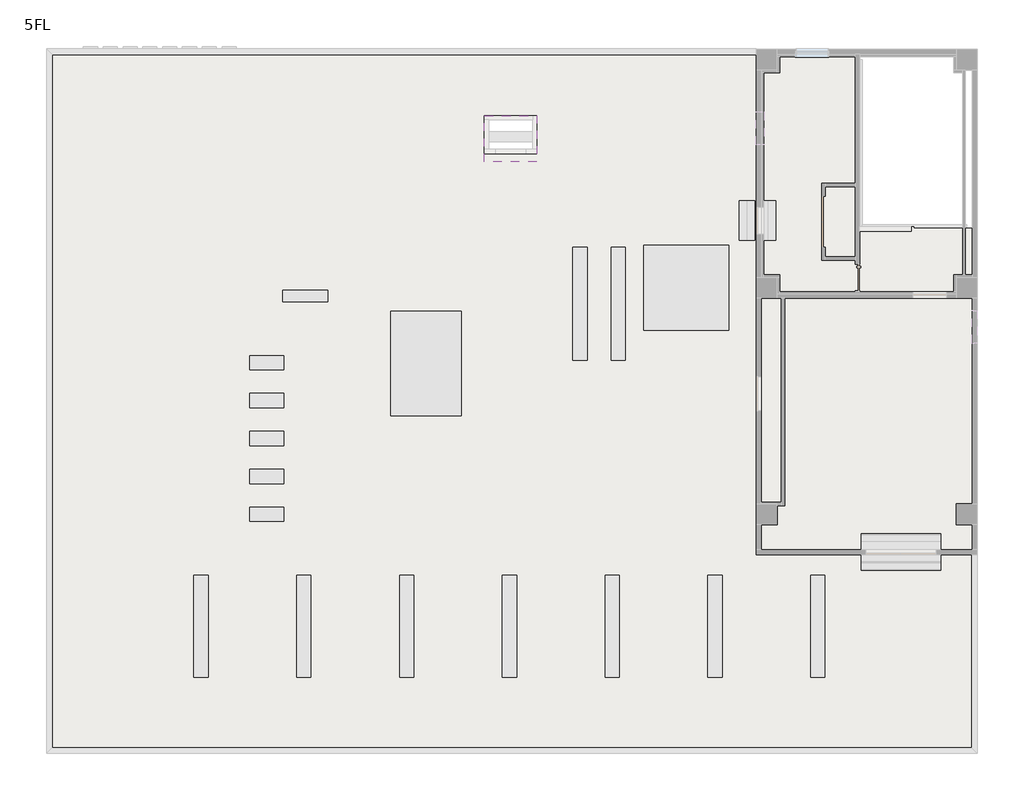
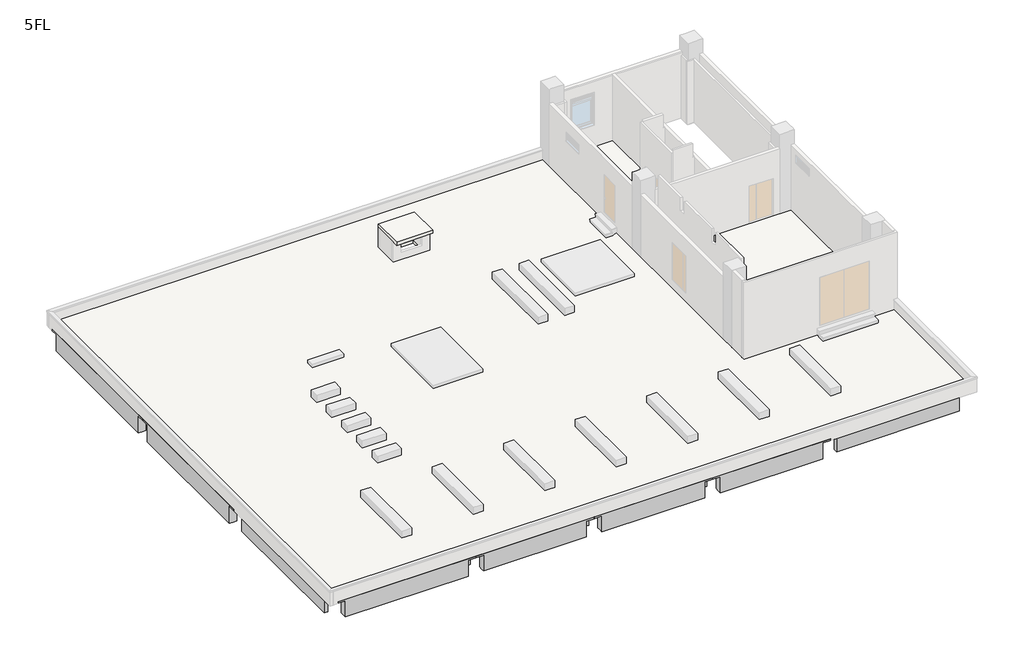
# One storey, part 2 of 3: 26 beams, 3 slabs.
"""IFC4 building model written with IfcOpenShell, lengths in millimetres."""

from ifc_helpers import new_model, si_unit, frame, origin, place, context, project, spatial, polyline, outline, extrude, faceted_brep, element, save

model = new_model("IFC4")

# Units and contexts
model_context = context("Model", 3, world=origin())
ifc_project = project(units=[si_unit("LENGTHUNIT", "METRE", prefix="MILLI")], contexts=[model_context])

# Site, building, storey
site = spatial("IfcSite", under=ifc_project)
building = spatial("IfcBuilding", under=site)
storey = spatial("IfcBuildingStorey", under=building, Name="5FL", Elevation=16400.0)

# Beams
placement = place(None, origin())
element("IfcBeam", 1, ObjectType="営_RC梁 : 2-RG1 350*850", at=placement, inside=storey, context=model_context, shape_type="Brep", body=[
    faceted_brep([(7000.0, -420.0, 16390.0), (0.0, -420.0, 16390.0), (0.0, -420.0, 16300.0), (370.0, -420.0, 16300.0), (370.0, -420.0, 15450.0), (6605.0, -420.0, 15450.0), (6605.0, -420.0, 16300.0), (7000.0, -420.0, 16300.0), (6605.0, -50.0, 15450.0), (6605.0, -250.0, 15450.0), (370.0, -250.0, 15450.0), (370.0, -50.0, 15450.0), (370.0, -50.0, 16240.0), (6605.0, -50.0, 16240.0), (7000.0, -335.0, 16390.0), (0.0, -335.0, 16390.0), (6605.0, -250.0, 16240.0), (6605.0, -335.0, 16240.0), (6605.0, -335.0, 16300.0), (370.0, -335.0, 16300.0), (370.0, -335.0, 16240.0), (370.0, -250.0, 16240.0), (7000.0, -335.0, 16300.0), (0.0, -335.0, 16300.0)], [[[0, 1, 2, 3, 4, 5, 6, 7]], [[8, 9, 5, 4, 10, 11]], [[8, 11, 12, 13]], [[1, 0, 14, 15]], [[5, 9, 8, 13, 16, 17, 18, 6]], [[11, 10, 4, 3, 19, 20, 21, 12]], [[0, 7, 22, 14]], [[2, 1, 15, 23]], [[7, 6, 18, 22]], [[3, 2, 23, 19]], [[20, 17, 16, 13, 12, 21]], [[17, 20, 19, 23, 15, 14, 22, 18]]]),
])
element("IfcBeam", 2, ObjectType="営_RC梁 : 2-RG1 350*850", at=placement, inside=storey, context=model_context, shape_type="Brep", body=[
    faceted_brep([(13000.0, -420.0, 16390.0), (7000.0, -420.0, 16390.0), (7000.0, -420.0, 16300.0), (7395.0, -420.0, 16300.0), (7395.0, -420.0, 15450.0), (12605.0, -420.0, 15450.0), (12605.0, -420.0, 16300.0), (13000.0, -420.0, 16300.0), (7395.0, -250.0, 15450.0), (7395.0, -50.0, 15450.0), (12605.0, -50.0, 15450.0), (12605.0, -250.0, 15450.0), (7395.0, -50.0, 16240.0), (12605.0, -50.0, 16240.0), (13000.0, -335.0, 16390.0), (7000.0, -335.0, 16390.0), (7395.0, -335.0, 16300.0), (7395.0, -335.0, 16240.0), (7395.0, -250.0, 16240.0), (12605.0, -250.0, 16240.0), (12605.0, -335.0, 16240.0), (12605.0, -335.0, 16300.0), (7000.0, -335.0, 16300.0), (13000.0, -335.0, 16300.0)], [[[0, 1, 2, 3, 4, 5, 6, 7]], [[4, 8, 9, 10, 11, 5]], [[10, 9, 12, 13]], [[1, 0, 14, 15]], [[9, 8, 4, 3, 16, 17, 18, 12]], [[5, 11, 10, 13, 19, 20, 21, 6]], [[2, 1, 15, 22]], [[0, 7, 23, 14]], [[3, 2, 22, 16]], [[7, 6, 21, 23]], [[17, 20, 19, 13, 12, 18]], [[20, 17, 16, 22, 15, 14, 23, 21]]]),
])
element("IfcBeam", 3, ObjectType="営_RC梁 : 2-RG1 350*850", at=placement, inside=storey, context=model_context, shape_type="Brep", body=[
    faceted_brep([(19000.0, -420.0, 16390.0), (13000.0, -420.0, 16390.0), (13000.0, -420.0, 16300.0), (13395.0, -420.0, 16300.0), (13395.0, -420.0, 15450.0), (18605.0, -420.0, 15450.0), (18605.0, -420.0, 16300.0), (19000.0, -420.0, 16300.0), (13395.0, -250.0, 15450.0), (13395.0, -50.0, 15450.0), (18605.0, -50.0, 15450.0), (18605.0, -250.0, 15450.0), (13395.0, -50.0, 16240.0), (18605.0, -50.0, 16240.0), (19000.0, -335.0, 16390.0), (13000.0, -335.0, 16390.0), (13395.0, -335.0, 16300.0), (13395.0, -335.0, 16240.0), (13395.0, -250.0, 16240.0), (18605.0, -250.0, 16240.0), (18605.0, -335.0, 16240.0), (18605.0, -335.0, 16300.0), (13000.0, -335.0, 16300.0), (19000.0, -335.0, 16300.0)], [[[0, 1, 2, 3, 4, 5, 6, 7]], [[4, 8, 9, 10, 11, 5]], [[10, 9, 12, 13]], [[1, 0, 14, 15]], [[9, 8, 4, 3, 16, 17, 18, 12]], [[5, 11, 10, 13, 19, 20, 21, 6]], [[2, 1, 15, 22]], [[0, 7, 23, 14]], [[3, 2, 22, 16]], [[7, 6, 21, 23]], [[17, 20, 19, 13, 12, 18]], [[20, 17, 16, 22, 15, 14, 23, 21]]]),
])
element("IfcBeam", 4, ObjectType="営_RC梁 : 2-RG1 350*850", at=placement, inside=storey, context=model_context, shape_type="Brep", body=[
    faceted_brep([(25000.0, -420.0, 16390.0), (19000.0, -420.0, 16390.0), (19000.0, -420.0, 16300.0), (19395.0, -420.0, 16300.0), (19395.0, -420.0, 15450.0), (24605.0, -420.0, 15450.0), (24605.0, -420.0, 16300.0), (25000.0, -420.0, 16300.0), (19395.0, -250.0, 15450.0), (19395.0, -50.0, 15450.0), (24605.0, -50.0, 15450.0), (24605.0, -250.0, 15450.0), (19395.0, -50.0, 16240.0), (24605.0, -50.0, 16240.0), (25000.0, -335.0, 16390.0), (19000.0, -335.0, 16390.0), (19395.0, -335.0, 16300.0), (19395.0, -335.0, 16240.0), (19395.0, -250.0, 16240.0), (24605.0, -250.0, 16240.0), (24605.0, -335.0, 16240.0), (24605.0, -335.0, 16300.0), (19000.0, -335.0, 16300.0), (25000.0, -335.0, 16300.0)], [[[0, 1, 2, 3, 4, 5, 6, 7]], [[4, 8, 9, 10, 11, 5]], [[10, 9, 12, 13]], [[1, 0, 14, 15]], [[9, 8, 4, 3, 16, 17, 18, 12]], [[5, 11, 10, 13, 19, 20, 21, 6]], [[2, 1, 15, 22]], [[0, 7, 23, 14]], [[3, 2, 22, 16]], [[7, 6, 21, 23]], [[17, 20, 19, 13, 12, 18]], [[20, 17, 16, 22, 15, 14, 23, 21]]]),
])
element("IfcBeam", 5, ObjectType="営_RC梁 : 2-RG1 350*850", at=placement, inside=storey, context=model_context, shape_type="SweptSolid", body=[
    extrude(outline(polyline([(25395.0, -50.0), (31630.0, -50.0), (31630.0, -250.0), (25395.0, -250.0), (25395.0, -50.0)])), frame((0.0, 0.0, 15450.0), z_axis=(0.0, 0.0, 1.0), x_axis=(1.0, 0.0, 0.0)), (0.0, 0.0, 1.0), 790.0),
])
element("IfcBeam", 6, ObjectType="営_RC梁 : 2-RG11 350*900", at=placement, inside=storey, context=model_context, shape_type="SweptSolid", body=[
    extrude(outline(polyline([(-50.0, 7605.0), (-50.0, 370.0), (-250.0, 370.0), (-250.0, 7605.0), (-50.0, 7605.0)])), frame((0.0, 0.0, 15400.0), z_axis=(0.0, 0.0, 1.0), x_axis=(1.0, 0.0, 0.0)), (0.0, 0.0, 1.0), 840.0),
])
element("IfcBeam", 7, ObjectType="営_RC梁 : 2-RG11 350*900", at=placement, inside=storey, context=model_context, shape_type="Brep", body=[
    faceted_brep([(-50.0, 8395.0, 15400.0), (-50.0, 13440.0, 15400.0), (-50.0, 13560.0, 15400.0), (-50.0, 15605.0, 15400.0), (-50.0, 15605.0, 16240.0), (-50.0, 13675.0, 16240.0), (-50.0, 13325.0, 16240.0), (-50.0, 10925.0, 16240.0), (-50.0, 10575.0, 16240.0), (-50.0, 8395.0, 16240.0), (-250.0, 8395.0, 15400.0), (-420.0, 8395.0, 15400.0), (-420.0, 15605.0, 15400.0), (-250.0, 15605.0, 15400.0), (-420.0, 8000.0, 16390.0), (-420.0, 16000.0, 16390.0), (-420.0, 16000.0, 16300.0), (-420.0, 15605.0, 16300.0), (-420.0, 8395.0, 16300.0), (-420.0, 8000.0, 16300.0), (-325.0, 8000.0, 16390.0), (-325.0, 16000.0, 16390.0), (-250.0, 8395.0, 16240.0), (-325.0, 8395.0, 16240.0), (-325.0, 8395.0, 16300.0), (-325.0, 15605.0, 16300.0), (-325.0, 15605.0, 16240.0), (-250.0, 15605.0, 16240.0), (-325.0, 8000.0, 16300.0), (-325.0, 16000.0, 16300.0)], [[[0, 1, 2, 3, 4, 5, 6, 7, 8, 9]], [[0, 10, 11, 12, 13, 3, 2, 1]], [[14, 15, 16, 17, 12, 11, 18, 19]], [[15, 14, 20, 21]], [[11, 10, 0, 9, 22, 23, 24, 18]], [[3, 13, 12, 17, 25, 26, 27, 4]], [[14, 19, 28, 20]], [[16, 15, 21, 29]], [[19, 18, 24, 28]], [[17, 16, 29, 25]], [[26, 23, 22, 9, 8, 7, 6, 5, 4, 27]], [[23, 26, 25, 29, 21, 20, 28, 24]]]),
])
element("IfcBeam", 8, ObjectType="営_RC梁 : 2-RG11 350*900", at=placement, inside=storey, context=model_context, shape_type="Brep", body=[
    faceted_brep([(-50.0, 16395.0, 15400.0), (-50.0, 23630.0, 15400.0), (-50.0, 23630.0, 16240.0), (-50.0, 18225.0, 16240.0), (-50.0, 17975.0, 16240.0), (-50.0, 16395.0, 16240.0), (-250.0, 16395.0, 15400.0), (-420.0, 16395.0, 15400.0), (-420.0, 23630.0, 15400.0), (-250.0, 23630.0, 15400.0), (-420.0, 16000.0, 16390.0), (-420.0, 24000.0, 16390.0), (-420.0, 24000.0, 16300.0), (-420.0, 23630.0, 16300.0), (-420.0, 16395.0, 16300.0), (-420.0, 16000.0, 16300.0), (-325.0, 16000.0, 16390.0), (-325.0, 24000.0, 16390.0), (-250.0, 16395.0, 16240.0), (-325.0, 16395.0, 16240.0), (-325.0, 16395.0, 16300.0), (-325.0, 23630.0, 16300.0), (-325.0, 23630.0, 16240.0), (-250.0, 23630.0, 16240.0), (-325.0, 16000.0, 16300.0), (-325.0, 24000.0, 16300.0)], [[[0, 1, 2, 3, 4, 5]], [[0, 6, 7, 8, 9, 1]], [[10, 11, 12, 13, 8, 7, 14, 15]], [[11, 10, 16, 17]], [[7, 6, 0, 5, 18, 19, 20, 14]], [[1, 9, 8, 13, 21, 22, 23, 2]], [[10, 15, 24, 16]], [[12, 11, 17, 25]], [[15, 14, 20, 24]], [[13, 12, 25, 21]], [[22, 19, 18, 5, 4, 3, 2, 23]], [[19, 22, 21, 25, 17, 16, 24, 20]]]),
])
element("IfcBeam", 9, ObjectType="営_RC梁 : 2-RG2 350*850", at=placement, inside=storey, context=model_context, shape_type="Brep", body=[
    faceted_brep([(370.0, 7825.0, 15450.0), (6605.0, 7825.0, 15450.0), (6605.0, 7825.0, 16240.0), (370.0, 7825.0, 16240.0), (6605.0, 8175.0, 15450.0), (6605.0, 8060.0, 15450.0), (6605.0, 7940.0, 15450.0), (370.0, 7940.0, 15450.0), (370.0, 8060.0, 15450.0), (370.0, 8175.0, 15450.0), (2930.0, 8175.0, 15450.0), (3050.0, 8175.0, 15450.0), (370.0, 8175.0, 16240.0), (6605.0, 8175.0, 16240.0)], [[[0, 1, 2, 3]], [[4, 5, 6, 1, 0, 7, 8, 9, 10, 11]], [[4, 11, 10, 9, 12, 13]], [[1, 6, 5, 4, 13, 2]], [[9, 8, 7, 0, 3, 12]], [[3, 2, 13, 12]]]),
])
element("IfcBeam", 10, ObjectType="営_RC梁 : 2-RG2 350*850", at=placement, inside=storey, context=model_context, shape_type="SweptSolid", body=[
    extrude(outline(polyline([(7395.0, 7825.0), (7395.0, 8175.0), (12605.0, 8175.0), (12605.0, 7825.0), (7395.0, 7825.0)])), frame((0.0, 0.0, 15450.0), z_axis=(0.0, 0.0, 1.0), x_axis=(1.0, 0.0, 0.0)), (0.0, 0.0, 1.0), 790.0),
])
element("IfcBeam", 11, ObjectType="営_RC梁 : RG12 350*900", at=placement, inside=storey, context=model_context, shape_type="Brep", body=[
    faceted_brep([(7175.0, 370.0, 15400.0), (7175.0, 7605.0, 15400.0), (7175.0, 7605.0, 16240.0), (7175.0, 5505.0, 16240.0), (7175.0, 5155.0, 16240.0), (7175.0, 2835.0, 16240.0), (7175.0, 2485.0, 16240.0), (7175.0, 370.0, 16240.0), (7060.0, 370.0, 15400.0), (6940.0, 370.0, 15400.0), (6825.0, 370.0, 15400.0), (6825.0, 2940.0, 15400.0), (6825.0, 3060.0, 15400.0), (6825.0, 7605.0, 15400.0), (6940.0, 7605.0, 15400.0), (7060.0, 7605.0, 15400.0), (6825.0, 370.0, 16240.0), (6825.0, 2485.0, 16240.0), (6825.0, 2835.0, 16240.0), (6825.0, 5155.0, 16240.0), (6825.0, 5505.0, 16240.0), (6825.0, 7605.0, 16240.0)], [[[0, 1, 2, 3, 4, 5, 6, 7]], [[0, 8, 9, 10, 11, 12, 13, 14, 15, 1]], [[13, 12, 11, 10, 16, 17, 18, 19, 20, 21]], [[10, 9, 8, 0, 7, 16]], [[1, 15, 14, 13, 21, 2]], [[7, 6, 5, 4, 3, 2, 21, 20, 19, 18, 17, 16]]]),
])
element("IfcBeam", 12, ObjectType="営_RC梁 : RG12 350*900", at=placement, inside=storey, context=model_context, shape_type="Brep", body=[
    faceted_brep([(7175.0, 8395.0, 15400.0), (7175.0, 13440.0, 15400.0), (7175.0, 13560.0, 15400.0), (7175.0, 15605.0, 15400.0), (7175.0, 15605.0, 16240.0), (7175.0, 13675.0, 16240.0), (7175.0, 13325.0, 16240.0), (7175.0, 10925.0, 16240.0), (7175.0, 10575.0, 16240.0), (7175.0, 8395.0, 16240.0), (7060.0, 8395.0, 15400.0), (6940.0, 8395.0, 15400.0), (6825.0, 8395.0, 15400.0), (6825.0, 13440.0, 15400.0), (6825.0, 13560.0, 15400.0), (6825.0, 15605.0, 15400.0), (6825.0, 8395.0, 16240.0), (6825.0, 10575.0, 16240.0), (6825.0, 10925.0, 16240.0), (6825.0, 13325.0, 16240.0), (6825.0, 13675.0, 16240.0), (6825.0, 15605.0, 16240.0)], [[[0, 1, 2, 3, 4, 5, 6, 7, 8, 9]], [[0, 10, 11, 12, 13, 14, 15, 3, 2, 1]], [[15, 14, 13, 12, 16, 17, 18, 19, 20, 21]], [[12, 11, 10, 0, 9, 16]], [[3, 15, 21, 4]], [[9, 8, 7, 6, 5, 4, 21, 20, 19, 18, 17, 16]]]),
])
element("IfcBeam", 13, ObjectType="営_RC梁 : RG12 350*900", at=placement, inside=storey, context=model_context, shape_type="Brep", body=[
    faceted_brep([(13175.0, 370.0, 15400.0), (13175.0, 7605.0, 15400.0), (13175.0, 7605.0, 16240.0), (13175.0, 5505.0, 16240.0), (13175.0, 5155.0, 16240.0), (13175.0, 2835.0, 16240.0), (13175.0, 2485.0, 16240.0), (13175.0, 370.0, 16240.0), (13060.0, 370.0, 15400.0), (12940.0, 370.0, 15400.0), (12825.0, 370.0, 15400.0), (12825.0, 7605.0, 15400.0), (12940.0, 7605.0, 15400.0), (13060.0, 7605.0, 15400.0), (12825.0, 370.0, 16240.0), (12825.0, 2485.0, 16240.0), (12825.0, 2835.0, 16240.0), (12825.0, 5155.0, 16240.0), (12825.0, 5505.0, 16240.0), (12825.0, 7605.0, 16240.0)], [[[0, 1, 2, 3, 4, 5, 6, 7]], [[0, 8, 9, 10, 11, 12, 13, 1]], [[11, 10, 14, 15, 16, 17, 18, 19]], [[10, 9, 8, 0, 7, 14]], [[1, 13, 12, 11, 19, 2]], [[7, 6, 5, 4, 3, 2, 19, 18, 17, 16, 15, 14]]]),
])
element("IfcBeam", 14, ObjectType="営_RC梁 : RG12 350*900", at=placement, inside=storey, context=model_context, shape_type="Brep", body=[
    faceted_brep([(13175.0, 8395.0, 15400.0), (13175.0, 13440.0, 15400.0), (13175.0, 13560.0, 15400.0), (13175.0, 15605.0, 15400.0), (13175.0, 15605.0, 16240.0), (13175.0, 13675.0, 16240.0), (13175.0, 13325.0, 16240.0), (13175.0, 10925.0, 16240.0), (13175.0, 10575.0, 16240.0), (13175.0, 8395.0, 16240.0), (13060.0, 8395.0, 15400.0), (12940.0, 8395.0, 15400.0), (12825.0, 8395.0, 15400.0), (12825.0, 13440.0, 15400.0), (12825.0, 13560.0, 15400.0), (12825.0, 15605.0, 15400.0), (12825.0, 8395.0, 16240.0), (12825.0, 10575.0, 16240.0), (12825.0, 10925.0, 16240.0), (12825.0, 13325.0, 16240.0), (12825.0, 13675.0, 16240.0), (12825.0, 15605.0, 16240.0)], [[[0, 1, 2, 3, 4, 5, 6, 7, 8, 9]], [[0, 10, 11, 12, 13, 14, 15, 3, 2, 1]], [[15, 14, 13, 12, 16, 17, 18, 19, 20, 21]], [[12, 11, 10, 0, 9, 16]], [[3, 15, 21, 4]], [[9, 8, 7, 6, 5, 4, 21, 20, 19, 18, 17, 16]]]),
])
element("IfcBeam", 15, ObjectType="営_RC梁 : RG12 350*900", at=placement, inside=storey, context=model_context, shape_type="Brep", body=[
    faceted_brep([(19175.0, 370.0, 15400.0), (19175.0, 7605.0, 15400.0), (19175.0, 7605.0, 16240.0), (19175.0, 5505.0, 16240.0), (19175.0, 5155.0, 16240.0), (19175.0, 2835.0, 16240.0), (19175.0, 2485.0, 16240.0), (19175.0, 370.0, 16240.0), (18825.0, 370.0, 15400.0), (18825.0, 7605.0, 15400.0), (18825.0, 370.0, 16240.0), (18825.0, 2485.0, 16240.0), (18825.0, 2835.0, 16240.0), (18825.0, 5155.0, 16240.0), (18825.0, 5505.0, 16240.0), (18825.0, 7605.0, 16240.0)], [[[0, 1, 2, 3, 4, 5, 6, 7]], [[0, 8, 9, 1]], [[9, 8, 10, 11, 12, 13, 14, 15]], [[8, 0, 7, 10]], [[1, 9, 15, 2]], [[7, 6, 5, 4, 3, 2, 15, 14, 13, 12, 11, 10]]]),
])
element("IfcBeam", 16, ObjectType="営_RC梁 : B1 350*750", at=placement, inside=storey, context=model_context, shape_type="SweptSolid", body=[
    extrude(outline(polyline([(19175.0, 2485.0), (19175.0, 2835.0), (24825.0, 2835.0), (24825.0, 2485.0), (19175.0, 2485.0)])), frame((0.0, 0.0, 15550.0), z_axis=(0.0, 0.0, 1.0), x_axis=(1.0, 0.0, 0.0)), (0.0, 0.0, 1.0), 690.0),
])
element("IfcBeam", 17, ObjectType="営_RC梁 : B1 350*750", at=placement, inside=storey, context=model_context, shape_type="SweptSolid", body=[
    extrude(outline(polyline([(13175.0, 5155.0), (13175.0, 5505.0), (18825.0, 5505.0), (18825.0, 5155.0), (13175.0, 5155.0)])), frame((0.0, 0.0, 15550.0), z_axis=(0.0, 0.0, 1.0), x_axis=(1.0, 0.0, 0.0)), (0.0, 0.0, 1.0), 690.0),
])
element("IfcBeam", 18, ObjectType="営_RC梁 : B1 350*750", at=placement, inside=storey, context=model_context, shape_type="SweptSolid", body=[
    extrude(outline(polyline([(13175.0, 2485.0), (13175.0, 2835.0), (18825.0, 2835.0), (18825.0, 2485.0), (13175.0, 2485.0)])), frame((0.0, 0.0, 15550.0), z_axis=(0.0, 0.0, 1.0), x_axis=(1.0, 0.0, 0.0)), (0.0, 0.0, 1.0), 690.0),
])
element("IfcBeam", 19, ObjectType="営_RC梁 : B1 350*750", at=placement, inside=storey, context=model_context, shape_type="SweptSolid", body=[
    extrude(outline(polyline([(7175.0, 5155.0), (7175.0, 5505.0), (12825.0, 5505.0), (12825.0, 5155.0), (7175.0, 5155.0)])), frame((0.0, 0.0, 15550.0), z_axis=(0.0, 0.0, 1.0), x_axis=(1.0, 0.0, 0.0)), (0.0, 0.0, 1.0), 690.0),
])
element("IfcBeam", 20, ObjectType="営_RC梁 : B1 350*750", at=placement, inside=storey, context=model_context, shape_type="SweptSolid", body=[
    extrude(outline(polyline([(7175.0, 2485.0), (7175.0, 2835.0), (12825.0, 2835.0), (12825.0, 2485.0), (7175.0, 2485.0)])), frame((0.0, 0.0, 15550.0), z_axis=(0.0, 0.0, 1.0), x_axis=(1.0, 0.0, 0.0)), (0.0, 0.0, 1.0), 690.0),
])
element("IfcBeam", 21, ObjectType="営_RC梁 : B1 350*750", at=placement, inside=storey, context=model_context, shape_type="SweptSolid", body=[
    extrude(outline(polyline([(-50.0, 5155.0), (-50.0, 5505.0), (6825.0, 5505.0), (6825.0, 5155.0), (-50.0, 5155.0)])), frame((0.0, 0.0, 15550.0), z_axis=(0.0, 0.0, 1.0), x_axis=(1.0, 0.0, 0.0)), (0.0, 0.0, 1.0), 690.0),
])
element("IfcBeam", 22, ObjectType="営_RC梁 : B1 350*750", at=placement, inside=storey, context=model_context, shape_type="SweptSolid", body=[
    extrude(outline(polyline([(-50.0, 2485.0), (-50.0, 2835.0), (6825.0, 2835.0), (6825.0, 2485.0), (-50.0, 2485.0)])), frame((0.0, 0.0, 15550.0), z_axis=(0.0, 0.0, 1.0), x_axis=(1.0, 0.0, 0.0)), (0.0, 0.0, 1.0), 690.0),
])
element("IfcBeam", 23, ObjectType="営_RC梁 : B1 350*750", at=placement, inside=storey, context=model_context, shape_type="Brep", body=[
    faceted_brep([(-50.0, 10575.0, 15550.0), (2930.0, 10575.0, 15550.0), (3050.0, 10575.0, 15550.0), (6825.0, 10575.0, 15550.0), (6825.0, 10575.0, 16240.0), (-50.0, 10575.0, 16240.0), (-50.0, 10925.0, 15550.0), (2930.0, 10925.0, 15550.0), (3050.0, 10925.0, 15550.0), (6825.0, 10925.0, 15550.0), (-50.0, 10925.0, 16240.0), (6825.0, 10925.0, 16240.0)], [[[0, 1, 2, 3, 4, 5]], [[0, 6, 7, 8, 9, 3, 2, 1]], [[9, 8, 7, 6, 10, 11]], [[6, 0, 5, 10]], [[3, 9, 11, 4]], [[5, 4, 11, 10]]]),
])
element("IfcBeam", 24, ObjectType="営_RC梁 : B1 350*750", at=placement, inside=storey, context=model_context, shape_type="Brep", body=[
    faceted_brep([(-50.0, 13325.0, 15550.0), (2930.0, 13325.0, 15550.0), (3050.0, 13325.0, 15550.0), (6825.0, 13325.0, 15550.0), (6825.0, 13325.0, 16240.0), (-50.0, 13325.0, 16240.0), (-50.0, 13675.0, 15550.0), (6825.0, 13675.0, 15550.0), (-50.0, 13675.0, 16240.0), (6825.0, 13675.0, 16240.0)], [[[0, 1, 2, 3, 4, 5]], [[0, 6, 7, 3, 2, 1]], [[7, 6, 8, 9]], [[6, 0, 5, 8]], [[3, 7, 9, 4]], [[5, 4, 9, 8]]]),
])
element("IfcBeam", 25, ObjectType="営_RC梁 : B1 350*750", at=placement, inside=storey, context=model_context, shape_type="SweptSolid", body=[
    extrude(outline(polyline([(7175.0, 10575.0), (7175.0, 10925.0), (12825.0, 10925.0), (12825.0, 10575.0), (7175.0, 10575.0)])), frame((0.0, 0.0, 15550.0), z_axis=(0.0, 0.0, 1.0), x_axis=(1.0, 0.0, 0.0)), (0.0, 0.0, 1.0), 690.0),
])
element("IfcBeam", 26, ObjectType="営_RC梁 : B1 350*750", at=placement, inside=storey, context=model_context, shape_type="SweptSolid", body=[
    extrude(outline(polyline([(7175.0, 13325.0), (7175.0, 13675.0), (12825.0, 13675.0), (12825.0, 13325.0), (7175.0, 13325.0)])), frame((0.0, 0.0, 15550.0), z_axis=(0.0, 0.0, 1.0), x_axis=(1.0, 0.0, 0.0)), (0.0, 0.0, 1.0), 690.0),
])

# Slabs
element("IfcSlab", 27, ObjectType="(外床)防水仕上げ", at=placement, inside=storey, context=model_context, shape_type="SweptSolid", body=[
    extrude(outline(polyline([(24630.0, 24250.0), (24630.0, 6580.0), (32250.0, 6580.0), (32250.0, -250.0), (-250.0, -250.0), (-250.0, 24250.0), (24630.0, 24250.0)]), holes=[polyline([(16875.0, 22085.0), (15025.0, 22085.0), (15025.0, 20735.0), (16875.0, 20735.0), (16875.0, 22085.0)]), polyline([(6735.0, 13610.0), (6735.0, 13110.0), (7935.0, 13110.0), (7935.0, 13610.0), (6735.0, 13610.0)]), polyline([(9500.0, 15512.969516), (9500.0, 15912.969516), (7900.0, 15912.969516), (7900.0, 15512.969516), (9500.0, 15512.969516)]), polyline([(6735.0, 12270.0), (6735.0, 11770.0), (7935.0, 11770.0), (7935.0, 12270.0), (6735.0, 12270.0)]), polyline([(6735.0, 10930.0), (6735.0, 10430.0), (7935.0, 10430.0), (7935.0, 10930.0), (6735.0, 10930.0)]), polyline([(6735.0, 9590.0), (6735.0, 9090.0), (7935.0, 9090.0), (7935.0, 9590.0), (6735.0, 9590.0)]), polyline([(6735.0, 8250.0), (6735.0, 7750.0), (7935.0, 7750.0), (7935.0, 8250.0), (6735.0, 8250.0)]), polyline([(14212.9716093, 11476.6237803), (14212.9716093, 15176.6237803), (11712.9716093, 15176.6237803), (11712.9716093, 11476.6237803), (14212.9716093, 11476.6237803)]), polyline([(5270.0, 5845.2819279), (4770.0, 5845.2819279), (4770.0, 2245.2819279), (5270.0, 2245.2819279), (5270.0, 5845.2819279)]), polyline([(8400.0, 2245.2819279), (8900.0, 2245.2819279), (8900.0, 5845.2819279), (8400.0, 5845.2819279), (8400.0, 2245.2819279)]), polyline([(12030.0, 2245.2819279), (12530.0, 2245.2819279), (12530.0, 5845.2819279), (12030.0, 5845.2819279), (12030.0, 2245.2819279)]), polyline([(15660.0, 2245.2819279), (16160.0, 2245.2819279), (16160.0, 5845.2819279), (15660.0, 5845.2819279), (15660.0, 2245.2819279)]), polyline([(19790.0, 5845.2819279), (19290.0, 5845.2819279), (19290.0, 2245.2819279), (19790.0, 2245.2819279), (19790.0, 5845.2819279)]), polyline([(22920.0, 2245.2819279), (23420.0, 2245.2819279), (23420.0, 5845.2819279), (22920.0, 5845.2819279), (22920.0, 2245.2819279)]), polyline([(26550.0, 2245.2819279), (27050.0, 2245.2819279), (27050.0, 5845.2819279), (26550.0, 5845.2819279), (26550.0, 2245.2819279)]), polyline([(18150.0, 13438.8996138), (18650.0, 13438.8996138), (18650.0, 17438.8996138), (18150.0, 17438.8996138), (18150.0, 13438.8996138)]), polyline([(19500.0, 13438.8996138), (20000.0, 13438.8996138), (20000.0, 17438.8996138), (19500.0, 17438.8996138), (19500.0, 13438.8996138)]), polyline([(23653.8750405, 14500.0), (23653.8750405, 17500.0), (20653.8750405, 17500.0), (20653.8750405, 14500.0), (23653.8750405, 14500.0)])]), frame((0.0, 0.0, 16390.0), z_axis=(0.0, 0.0, 1.0), x_axis=(1.0, 0.0, 0.0)), (0.0, 0.0, 1.0), 140.0),
])
element("IfcSlab", 28, ObjectType="(RC)150", at=placement, inside=storey, context=model_context, shape_type="Brep", body=[
    faceted_brep([(7395.0, 370.0, 16240.0), (7175.0, 370.0, 16240.0), (6825.0, 370.0, 16240.0), (6605.0, 370.0, 16240.0), (6605.0, -50.0, 16240.0), (6605.0, -250.0, 16240.0), (370.0, -250.0, 16240.0), (370.0, -50.0, 16240.0), (370.0, 370.0, 16240.0), (-50.0, 370.0, 16240.0), (-250.0, 370.0, 16240.0), (-250.0, 7605.0, 16240.0), (-50.0, 7605.0, 16240.0), (370.0, 7605.0, 16240.0), (370.0, 7825.0, 16240.0), (370.0, 8175.0, 16240.0), (370.0, 8395.0, 16240.0), (-50.0, 8395.0, 16240.0), (-250.0, 8395.0, 16240.0), (-250.0, 15605.0, 16240.0), (-50.0, 15605.0, 16240.0), (370.0, 15605.0, 16240.0), (370.0, 15825.0, 16240.0), (370.0, 16175.0, 16240.0), (370.0, 16395.0, 16240.0), (-50.0, 16395.0, 16240.0), (-250.0, 16395.0, 16240.0), (-250.0, 23630.0, 16240.0), (-50.0, 23630.0, 16240.0), (370.0, 23630.0, 16240.0), (370.0, 24050.0, 16240.0), (370.0, 24290.0, 16240.0), (6605.0, 24290.0, 16240.0), (6605.0, 24050.0, 16240.0), (6605.0, 23630.0, 16240.0), (6825.0, 23630.0, 16240.0), (7175.0, 23630.0, 16240.0), (7395.0, 23630.0, 16240.0), (7395.0, 24050.0, 16240.0), (7395.0, 24290.0, 16240.0), (12605.0, 24290.0, 16240.0), (12605.0, 24050.0, 16240.0), (12605.0, 23630.0, 16240.0), (12825.0, 23630.0, 16240.0), (13175.0, 23630.0, 16240.0), (13395.0, 23630.0, 16240.0), (13395.0, 24050.0, 16240.0), (13395.0, 24290.0, 16240.0), (18605.0, 24290.0, 16240.0), (18605.0, 24050.0, 16240.0), (18605.0, 23630.0, 16240.0), (18825.0, 23630.0, 16240.0), (19175.0, 23630.0, 16240.0), (19395.0, 23630.0, 16240.0), (19395.0, 24050.0, 16240.0), (19395.0, 24290.0, 16240.0), (24605.0, 24290.0, 16240.0), (24605.0, 24050.0, 16240.0), (24605.0, 23630.0, 16240.0), (24825.0, 23630.0, 16240.0), (25175.0, 23630.0, 16240.0), (25395.0, 23630.0, 16240.0), (25395.0, 24050.0, 16240.0), (25395.0, 24290.0, 16240.0), (28275.0, 24290.0, 16240.0), (28275.0, 24050.0, 16240.0), (28275.0, 18150.0, 16240.0), (28374.0, 18150.0, 16240.0), (30180.0, 18150.0, 16240.0), (30180.0, 18100.0, 16240.0), (32050.0, 18100.0, 16240.0), (32250.0, 18100.0, 16240.0), (32250.0, 16395.0, 16240.0), (32050.0, 16395.0, 16240.0), (31630.0, 16395.0, 16240.0), (31630.0, 16175.0, 16240.0), (31630.0, 15825.0, 16240.0), (31630.0, 15605.0, 16240.0), (32050.0, 15605.0, 16240.0), (32250.0, 15605.0, 16240.0), (32250.0, 8395.0, 16240.0), (32050.0, 8395.0, 16240.0), (31630.0, 8395.0, 16240.0), (31630.0, 8175.0, 16240.0), (31630.0, 7825.0, 16240.0), (31630.0, 7605.0, 16240.0), (32250.0, 7605.0, 16240.0), (32250.0, 370.0, 16240.0), (32050.0, 370.0, 16240.0), (31630.0, 370.0, 16240.0), (31630.0, -50.0, 16240.0), (31630.0, -250.0, 16240.0), (25395.0, -250.0, 16240.0), (25395.0, -50.0, 16240.0), (25395.0, 370.0, 16240.0), (25175.0, 370.0, 16240.0), (24825.0, 370.0, 16240.0), (24605.0, 370.0, 16240.0), (24605.0, -50.0, 16240.0), (24605.0, -250.0, 16240.0), (19395.0, -250.0, 16240.0), (19395.0, -50.0, 16240.0), (19395.0, 370.0, 16240.0), (19175.0, 370.0, 16240.0), (18825.0, 370.0, 16240.0), (18605.0, 370.0, 16240.0), (18605.0, -50.0, 16240.0), (18605.0, -250.0, 16240.0), (13395.0, -250.0, 16240.0), (13395.0, -50.0, 16240.0), (13395.0, 370.0, 16240.0), (13175.0, 370.0, 16240.0), (12825.0, 370.0, 16240.0), (12605.0, 370.0, 16240.0), (12605.0, -50.0, 16240.0), (12605.0, -250.0, 16240.0), (7395.0, -250.0, 16240.0), (7395.0, -50.0, 16240.0), (16725.0, 21935.0, 16240.0), (15175.0, 21935.0, 16240.0), (15175.0, 21515.0, 16240.0), (15175.0, 21165.0, 16240.0), (15175.0, 20885.0, 16240.0), (16725.0, 20885.0, 16240.0), (16725.0, 21165.0, 16240.0), (16725.0, 21515.0, 16240.0), (7395.0, 7605.0, 16240.0), (7395.0, 7825.0, 16240.0), (7395.0, 8175.0, 16240.0), (7395.0, 8395.0, 16240.0), (7175.0, 8395.0, 16240.0), (6825.0, 8395.0, 16240.0), (6605.0, 8395.0, 16240.0), (6605.0, 8175.0, 16240.0), (6605.0, 7825.0, 16240.0), (6605.0, 7605.0, 16240.0), (6825.0, 7605.0, 16240.0), (7175.0, 7605.0, 16240.0), (13395.0, 7605.0, 16240.0), (13395.0, 7825.0, 16240.0), (13395.0, 8175.0, 16240.0), (13395.0, 8395.0, 16240.0), (13175.0, 8395.0, 16240.0), (12825.0, 8395.0, 16240.0), (12605.0, 8395.0, 16240.0), (12605.0, 8175.0, 16240.0), (12605.0, 7825.0, 16240.0), (12605.0, 7605.0, 16240.0), (12825.0, 7605.0, 16240.0), (13175.0, 7605.0, 16240.0), (19395.0, 7605.0, 16240.0), (19395.0, 7825.0, 16240.0), (19395.0, 8175.0, 16240.0), (19395.0, 8395.0, 16240.0), (19175.0, 8395.0, 16240.0), (18825.0, 8395.0, 16240.0), (18605.0, 8395.0, 16240.0), (18605.0, 8175.0, 16240.0), (18605.0, 7825.0, 16240.0), (18605.0, 7605.0, 16240.0), (18825.0, 7605.0, 16240.0), (19175.0, 7605.0, 16240.0), (25395.0, 7605.0, 16240.0), (25395.0, 7825.0, 16240.0), (25395.0, 8175.0, 16240.0), (25395.0, 8395.0, 16240.0), (25175.0, 8395.0, 16240.0), (24825.0, 8395.0, 16240.0), (24605.0, 8395.0, 16240.0), (24605.0, 8175.0, 16240.0), (24605.0, 7825.0, 16240.0), (24605.0, 7605.0, 16240.0), (24825.0, 7605.0, 16240.0), (25175.0, 7605.0, 16240.0), (7395.0, 15605.0, 16240.0), (7395.0, 15825.0, 16240.0), (7395.0, 16175.0, 16240.0), (7395.0, 16395.0, 16240.0), (7175.0, 16395.0, 16240.0), (6825.0, 16395.0, 16240.0), (6605.0, 16395.0, 16240.0), (6605.0, 16175.0, 16240.0), (6605.0, 15825.0, 16240.0), (6605.0, 15605.0, 16240.0), (6825.0, 15605.0, 16240.0), (7175.0, 15605.0, 16240.0), (13395.0, 15605.0, 16240.0), (13395.0, 15825.0, 16240.0), (13395.0, 16175.0, 16240.0), (13395.0, 16395.0, 16240.0), (13175.0, 16395.0, 16240.0), (12825.0, 16395.0, 16240.0), (12605.0, 16395.0, 16240.0), (12605.0, 16175.0, 16240.0), (12605.0, 15825.0, 16240.0), (12605.0, 15605.0, 16240.0), (12825.0, 15605.0, 16240.0), (13175.0, 15605.0, 16240.0), (19395.0, 15605.0, 16240.0), (19395.0, 15825.0, 16240.0), (19395.0, 16175.0, 16240.0), (19395.0, 16395.0, 16240.0), (19175.0, 16395.0, 16240.0), (18825.0, 16395.0, 16240.0), (18605.0, 16395.0, 16240.0), (18605.0, 16175.0, 16240.0), (18605.0, 15825.0, 16240.0), (18605.0, 15605.0, 16240.0), (18825.0, 15605.0, 16240.0), (19175.0, 15605.0, 16240.0), (25395.0, 15605.0, 16240.0), (25395.0, 15825.0, 16240.0), (25395.0, 16175.0, 16240.0), (25395.0, 16395.0, 16240.0), (25175.0, 16395.0, 16240.0), (24825.0, 16395.0, 16240.0), (24605.0, 16395.0, 16240.0), (24605.0, 16175.0, 16240.0), (24605.0, 15825.0, 16240.0), (24605.0, 15605.0, 16240.0), (24825.0, 15605.0, 16240.0), (25175.0, 15605.0, 16240.0), (-325.0, -335.0, 16390.0), (-250.0, -335.0, 16390.0), (0.0, -335.0, 16390.0), (7000.0, -335.0, 16390.0), (13000.0, -335.0, 16390.0), (19000.0, -335.0, 16390.0), (25000.0, -335.0, 16390.0), (32335.0, -335.0, 16390.0), (32335.0, -250.0, 16390.0), (32335.0, 6580.0, 16390.0), (32335.0, 6750.0, 16390.0), (32335.0, 7630.0, 16390.0), (31680.0, 7630.0, 16390.0), (31680.0, 8370.0, 16390.0), (32335.0, 8370.0, 16390.0), (32335.0, 15630.0, 16390.0), (31680.0, 15630.0, 16390.0), (31680.0, 15780.0, 16390.0), (31680.0, 16370.0, 16390.0), (32335.0, 16370.0, 16390.0), (32335.0, 18100.0, 16390.0), (32050.0, 18100.0, 16390.0), (30180.0, 18100.0, 16390.0), (30180.0, 18150.0, 16390.0), (28374.0, 18150.0, 16390.0), (28275.0, 18150.0, 16390.0), (28275.0, 24050.0, 16390.0), (28275.0, 24290.0, 16390.0), (25370.0, 24290.0, 16390.0), (25370.0, 24250.0, 16390.0), (25370.0, 23680.0, 16390.0), (24630.0, 23680.0, 16390.0), (24630.0, 24290.0, 16390.0), (19000.0, 24290.0, 16390.0), (13000.0, 24290.0, 16390.0), (7000.0, 24290.0, 16390.0), (0.0, 24290.0, 16390.0), (-325.0, 24290.0, 16390.0), (-325.0, 24250.0, 16390.0), (-325.0, 24000.0, 16390.0), (-325.0, 16000.0, 16390.0), (-325.0, 8000.0, 16390.0), (25370.0, 8370.0, 16390.0), (25370.0, 7630.0, 16390.0), (24630.0, 7630.0, 16390.0), (24630.0, 8370.0, 16390.0), (15175.0, 21935.0, 16390.0), (16725.0, 21935.0, 16390.0), (16725.0, 21515.0, 16390.0), (16725.0, 21165.0, 16390.0), (16725.0, 20885.0, 16390.0), (15175.0, 20885.0, 16390.0), (15175.0, 21165.0, 16390.0), (15175.0, 21515.0, 16390.0), (25370.0, 16370.0, 16390.0), (25370.0, 15780.0, 16390.0), (25370.0, 15630.0, 16390.0), (24630.0, 15630.0, 16390.0), (24630.0, 16370.0, 16390.0), (32335.0, -335.0, 16300.0), (32335.0, -250.0, 16300.0), (32335.0, 6580.0, 16300.0), (32335.0, 6750.0, 16300.0), (32335.0, 7630.0, 16300.0), (32335.0, 15630.0, 16300.0), (32335.0, 8370.0, 16300.0), (32335.0, 8395.0, 16300.0), (32335.0, 15605.0, 16300.0), (32335.0, 16370.0, 16300.0), (32335.0, 16395.0, 16300.0), (32335.0, 18100.0, 16300.0), (-325.0, -335.0, 16300.0), (-250.0, -335.0, 16300.0), (0.0, -335.0, 16300.0), (370.0, -335.0, 16300.0), (6605.0, -335.0, 16300.0), (7000.0, -335.0, 16300.0), (7395.0, -335.0, 16300.0), (12605.0, -335.0, 16300.0), (13000.0, -335.0, 16300.0), (13395.0, -335.0, 16300.0), (18605.0, -335.0, 16300.0), (19000.0, -335.0, 16300.0), (19395.0, -335.0, 16300.0), (24605.0, -335.0, 16300.0), (25000.0, -335.0, 16300.0), (-325.0, 24290.0, 16300.0), (-325.0, 24250.0, 16300.0), (-325.0, 24000.0, 16300.0), (-325.0, 23630.0, 16300.0), (-325.0, 16395.0, 16300.0), (-325.0, 16000.0, 16300.0), (-325.0, 15605.0, 16300.0), (-325.0, 8395.0, 16300.0), (-325.0, 8000.0, 16300.0), (7395.0, 24290.0, 16300.0), (7000.0, 24290.0, 16300.0), (6605.0, 24290.0, 16300.0), (370.0, 24290.0, 16300.0), (0.0, 24290.0, 16300.0), (24630.0, 24290.0, 16300.0), (24605.0, 24290.0, 16300.0), (19395.0, 24290.0, 16300.0), (19000.0, 24290.0, 16300.0), (18605.0, 24290.0, 16300.0), (13395.0, 24290.0, 16300.0), (13000.0, 24290.0, 16300.0), (12605.0, 24290.0, 16300.0), (25395.0, 24290.0, 16300.0), (25370.0, 24290.0, 16300.0), (7395.0, 370.0, 16300.0), (7395.0, -250.0, 16300.0), (6605.0, 370.0, 16300.0), (6605.0, -250.0, 16300.0), (25395.0, -250.0, 16300.0), (31630.0, -250.0, 16300.0), (31630.0, 370.0, 16300.0), (32250.0, 370.0, 16300.0), (32250.0, 7605.0, 16300.0), (31630.0, 7605.0, 16300.0), (31630.0, 8395.0, 16300.0), (32250.0, 8395.0, 16300.0), (32250.0, 15605.0, 16300.0), (31630.0, 15605.0, 16300.0), (31630.0, 16395.0, 16300.0), (32250.0, 16395.0, 16300.0), (32250.0, 18100.0, 16300.0), (31680.0, 16370.0, 16300.0), (31680.0, 15630.0, 16300.0), (31680.0, 8370.0, 16300.0), (31680.0, 7630.0, 16300.0), (370.0, 23630.0, 16300.0), (-250.0, 23630.0, 16300.0), (-250.0, 16395.0, 16300.0), (370.0, 16395.0, 16300.0), (370.0, 15605.0, 16300.0), (-250.0, 15605.0, 16300.0), (-250.0, 8395.0, 16300.0), (370.0, 8395.0, 16300.0), (370.0, 7605.0, 16300.0), (-250.0, 7605.0, 16300.0), (-250.0, 370.0, 16300.0), (370.0, 370.0, 16300.0), (370.0, -250.0, 16300.0), (12605.0, -250.0, 16300.0), (12605.0, 370.0, 16300.0), (13395.0, 370.0, 16300.0), (13395.0, -250.0, 16300.0), (18605.0, -250.0, 16300.0), (18605.0, 370.0, 16300.0), (19395.0, 370.0, 16300.0), (19395.0, -250.0, 16300.0), (24605.0, -250.0, 16300.0), (24605.0, 370.0, 16300.0), (25395.0, 370.0, 16300.0), (7395.0, 7605.0, 16300.0), (7395.0, 8395.0, 16300.0), (6605.0, 7605.0, 16300.0), (6605.0, 8395.0, 16300.0), (13395.0, 7605.0, 16300.0), (13395.0, 8395.0, 16300.0), (12605.0, 7605.0, 16300.0), (12605.0, 8395.0, 16300.0), (19395.0, 7605.0, 16300.0), (19395.0, 8395.0, 16300.0), (18605.0, 7605.0, 16300.0), (18605.0, 8395.0, 16300.0), (25395.0, 7605.0, 16300.0), (25395.0, 8395.0, 16300.0), (24605.0, 7605.0, 16300.0), (24605.0, 8395.0, 16300.0), (25370.0, 7630.0, 16300.0), (25370.0, 8370.0, 16300.0), (24630.0, 8370.0, 16300.0), (24630.0, 7630.0, 16300.0), (7395.0, 15605.0, 16300.0), (7395.0, 16395.0, 16300.0), (6605.0, 15605.0, 16300.0), (6605.0, 16395.0, 16300.0), (13395.0, 15605.0, 16300.0), (13395.0, 16395.0, 16300.0), (12605.0, 15605.0, 16300.0), (12605.0, 16395.0, 16300.0), (19395.0, 15605.0, 16300.0), (19395.0, 16395.0, 16300.0), (18605.0, 15605.0, 16300.0), (18605.0, 16395.0, 16300.0), (25395.0, 15605.0, 16300.0), (25395.0, 16395.0, 16300.0), (24605.0, 15605.0, 16300.0), (24605.0, 16395.0, 16300.0), (25370.0, 15630.0, 16300.0), (25370.0, 16370.0, 16300.0), (24630.0, 16370.0, 16300.0), (24630.0, 15630.0, 16300.0), (7395.0, 23630.0, 16300.0), (6605.0, 23630.0, 16300.0), (13395.0, 23630.0, 16300.0), (12605.0, 23630.0, 16300.0), (19395.0, 23630.0, 16300.0), (18605.0, 23630.0, 16300.0), (25395.0, 23630.0, 16300.0), (24605.0, 23630.0, 16300.0), (24630.0, 23680.0, 16300.0), (25370.0, 23680.0, 16300.0)], [[[0, 1, 2, 3, 4, 5, 6, 7, 8, 9, 10, 11, 12, 13, 14, 15, 16, 17, 18, 19, 20, 21, 22, 23, 24, 25, 26, 27, 28, 29, 30, 31, 32, 33, 34, 35, 36, 37, 38, 39, 40, 41, 42, 43, 44, 45, 46, 47, 48, 49, 50, 51, 52, 53, 54, 55, 56, 57, 58, 59, 60, 61, 62, 63, 64, 65, 66, 67, 68, 69, 70, 71, 72, 73, 74, 75, 76, 77, 78, 79, 80, 81, 82, 83, 84, 85, 86, 87, 88, 89, 90, 91, 92, 93, 94, 95, 96, 97, 98, 99, 100, 101, 102, 103, 104, 105, 106, 107, 108, 109, 110, 111, 112, 113, 114, 115, 116, 117], [118, 119, 120, 121, 122, 123, 124, 125], [126, 127, 128, 129, 130, 131, 132, 133, 134, 135, 136, 137], [138, 139, 140, 141, 142, 143, 144, 145, 146, 147, 148, 149], [150, 151, 152, 153, 154, 155, 156, 157, 158, 159, 160, 161], [162, 163, 164, 165, 166, 167, 168, 169, 170, 171, 172, 173], [174, 175, 176, 177, 178, 179, 180, 181, 182, 183, 184, 185], [186, 187, 188, 189, 190, 191, 192, 193, 194, 195, 196, 197], [198, 199, 200, 201, 202, 203, 204, 205, 206, 207, 208, 209], [210, 211, 212, 213, 214, 215, 216, 217, 218, 219, 220, 221]], [[222, 223, 224, 225, 226, 227, 228, 229, 230, 231, 232, 233, 234, 235, 236, 237, 238, 239, 240, 241, 242, 243, 244, 245, 246, 247, 248, 249, 250, 251, 252, 253, 254, 255, 256, 257, 258, 259, 260, 261, 262, 263], [264, 265, 266, 267], [268, 269, 270, 271, 272, 273, 274, 275], [276, 277, 278, 279, 280]], [[229, 281, 282, 283, 284, 285, 233, 232, 231, 230]], [[286, 237, 236, 287, 288, 289]], [[242, 241, 290, 291, 292]], [[229, 228, 227, 226, 225, 224, 223, 222, 293, 294, 295, 296, 297, 298, 299, 300, 301, 302, 303, 304, 305, 306, 307, 281]], [[222, 263, 262, 261, 260, 259, 308, 309, 310, 311, 312, 313, 314, 315, 316, 293]], [[39, 317, 318, 319, 32, 31, 320, 321, 308, 259, 258, 257, 256, 255, 254, 322, 323, 56, 55, 324, 325, 326, 48, 47, 327, 328, 329, 40]], [[64, 63, 330, 331, 250, 249]], [[332, 0, 117, 116, 333]], [[3, 334, 335, 5, 4]], [[332, 334, 3, 2, 1, 0]], [[336, 337, 338, 339, 340, 341, 342, 343, 344, 345, 346, 347, 348, 292, 291, 290, 349, 350, 286, 289, 288, 287, 351, 352, 285, 284, 283, 282, 281, 307, 306, 305, 304, 303, 302, 301, 300, 299, 298, 297, 296, 295, 294, 293, 316, 315, 314, 313, 312, 311, 310, 309, 308, 321, 320, 353, 354, 355, 356, 357, 358, 359, 360, 361, 362, 363, 364, 365, 335, 334, 332, 333, 366, 367, 368, 369, 370, 371, 372, 373, 374, 375, 376]], [[368, 110, 109, 108, 369]], [[113, 367, 366, 115, 114]], [[368, 367, 113, 112, 111, 110]], [[372, 102, 101, 100, 373]], [[105, 371, 370, 107, 106]], [[372, 371, 105, 104, 103, 102]], [[376, 94, 93, 92, 336]], [[97, 375, 374, 99, 98]], [[376, 375, 97, 96, 95, 94]], [[89, 338, 337, 91, 90]], [[338, 89, 88, 87, 339]], [[364, 8, 7, 6, 365]], [[8, 364, 363, 10, 9]], [[377, 378, 129, 128, 127, 126]], [[379, 377, 126, 137, 136, 135]], [[380, 379, 135, 134, 133, 132]], [[378, 380, 132, 131, 130, 129]], [[378, 377, 379, 380]], [[381, 382, 141, 140, 139, 138]], [[383, 381, 138, 149, 148, 147]], [[384, 383, 147, 146, 145, 144]], [[382, 384, 144, 143, 142, 141]], [[382, 381, 383, 384]], [[385, 386, 153, 152, 151, 150]], [[387, 385, 150, 161, 160, 159]], [[388, 387, 159, 158, 157, 156]], [[386, 388, 156, 155, 154, 153]], [[386, 385, 387, 388]], [[389, 390, 165, 164, 163, 162]], [[391, 389, 162, 173, 172, 171]], [[392, 391, 171, 170, 169, 168]], [[390, 392, 168, 167, 166, 165]], [[390, 389, 391, 392], [393, 394, 395, 396]], [[85, 341, 340, 86]], [[342, 341, 85, 84, 83, 82]], [[342, 82, 81, 80, 343]], [[361, 360, 16, 15, 14, 13]], [[361, 13, 12, 11, 362]], [[16, 360, 359, 18, 17]], [[397, 398, 177, 176, 175, 174]], [[399, 397, 174, 185, 184, 183]], [[400, 399, 183, 182, 181, 180]], [[398, 400, 180, 179, 178, 177]], [[398, 397, 399, 400]], [[401, 402, 189, 188, 187, 186]], [[403, 401, 186, 197, 196, 195]], [[404, 403, 195, 194, 193, 192]], [[402, 404, 192, 191, 190, 189]], [[402, 401, 403, 404]], [[405, 406, 201, 200, 199, 198]], [[407, 405, 198, 209, 208, 207]], [[408, 407, 207, 206, 205, 204]], [[406, 408, 204, 203, 202, 201]], [[406, 405, 407, 408]], [[409, 410, 213, 212, 211, 210]], [[411, 409, 210, 221, 220, 219]], [[412, 411, 219, 218, 217, 216]], [[410, 412, 216, 215, 214, 213]], [[410, 409, 411, 412], [413, 414, 415, 416]], [[77, 345, 344, 79, 78]], [[346, 345, 77, 76, 75, 74]], [[346, 74, 73, 72, 347]], [[357, 356, 24, 23, 22, 21]], [[357, 21, 20, 19, 358]], [[24, 356, 355, 26, 25]], [[37, 417, 317, 39, 38]], [[418, 417, 37, 36, 35, 34]], [[418, 34, 33, 32, 319]], [[417, 418, 319, 318, 317]], [[45, 419, 327, 47, 46]], [[420, 419, 45, 44, 43, 42]], [[420, 42, 41, 40, 329]], [[419, 420, 329, 328, 327]], [[53, 421, 324, 55, 54]], [[422, 421, 53, 52, 51, 50]], [[422, 50, 49, 48, 326]], [[421, 422, 326, 325, 324]], [[61, 423, 330, 63, 62]], [[424, 423, 61, 60, 59, 58]], [[424, 58, 57, 56, 323]], [[423, 424, 323, 322, 425, 426, 331, 330]], [[29, 353, 320, 31, 30]], [[353, 29, 28, 27, 354]], [[413, 278, 277, 276, 414]], [[278, 413, 416, 279]], [[279, 416, 415, 280]], [[280, 415, 414, 276]], [[350, 238, 237, 286]], [[238, 350, 349, 240, 239]], [[240, 349, 290, 241]], [[426, 252, 251, 250, 331]], [[252, 426, 425, 253]], [[253, 425, 322, 254]], [[393, 265, 264, 394]], [[265, 393, 396, 266]], [[266, 396, 395, 267]], [[267, 395, 394, 264]], [[352, 234, 233, 285]], [[234, 352, 351, 235]], [[235, 351, 287, 236]], [[359, 358, 19, 18]], [[355, 354, 27, 26]], [[363, 362, 11, 10]], [[348, 347, 72, 71]], [[344, 343, 80, 79]], [[340, 339, 87, 86]], [[366, 333, 116, 115]], [[370, 369, 108, 107]], [[374, 373, 100, 99]], [[335, 365, 6, 5]], [[337, 336, 92, 91]], [[119, 118, 269, 268]], [[122, 121, 120, 119, 268, 275, 274, 273]], [[123, 122, 273, 272]], [[118, 125, 124, 123, 272, 271, 270, 269]], [[66, 65, 64, 249, 248, 247]], [[68, 67, 66, 247, 246, 245]], [[69, 68, 245, 244]], [[244, 243, 242, 292, 348, 71, 70, 69]]]),
])
element("IfcSlab", 29, ObjectType="(RC)150", at=placement, inside=storey, context=model_context, shape_type="SweptSolid", body=[
    extrude(outline(polyline([(22085.0, 17600.0), (20460.0, 17600.0), (20460.0, 17780.0), (22085.0, 17750.0), (22085.0, 17600.0)])), frame((15025.0, 0.0, 0.0), z_axis=(1.0, 0.0, 0.0), x_axis=(0.0, 1.0, 0.0)), (0.0, 0.0, 1.0), 1850.0),
])

save(model, "model.ifc")
